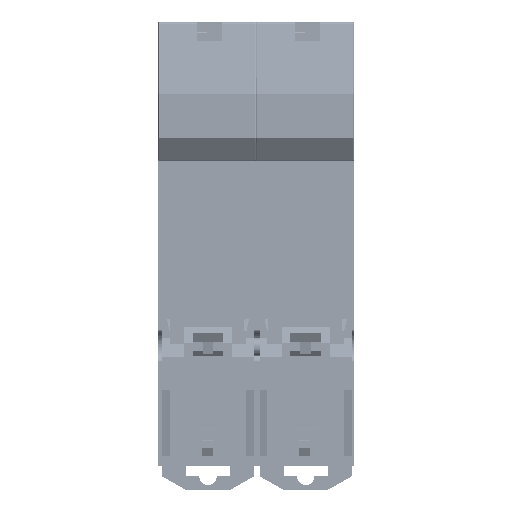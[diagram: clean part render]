
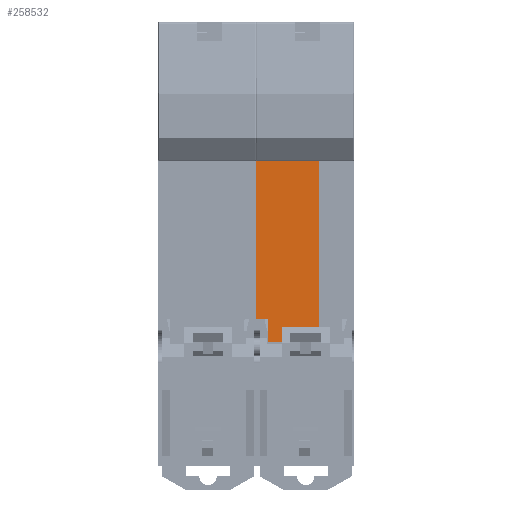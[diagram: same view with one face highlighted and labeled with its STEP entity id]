
A CAD part, left-side view. The second image highlights one B-rep face of the part: STEP entity #258532.
In plain terms, the highlighted planar face has unit normal (-1, 0, 0).
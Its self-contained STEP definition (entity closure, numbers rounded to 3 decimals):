
#2068 = ORIENTED_EDGE ( 'NONE', *, *, #151722, .T. ) ;
#18784 = ORIENTED_EDGE ( 'NONE', *, *, #134835, .T. ) ;
#41445 = CARTESIAN_POINT ( 'NONE',  ( -2.5, 17.8, 58.1 ) ) ;
#49474 = DIRECTION ( 'NONE',  ( 0., 1., 0. ) ) ;
#56892 = CARTESIAN_POINT ( 'NONE',  ( -2.5, 17.8, 26.9 ) ) ;
#66503 = CARTESIAN_POINT ( 'NONE',  ( -2.5, 17.8, 26.9 ) ) ;
#67610 = CARTESIAN_POINT ( 'NONE',  ( -2.5, 15.65, 22.6 ) ) ;
#70906 = EDGE_LOOP ( 'NONE', ( #301966, #2068, #261296, #18784, #110823, #264464 ) ) ;
#76070 = CARTESIAN_POINT ( 'NONE',  ( -2.5, 38.9, 58.1 ) ) ;
#82437 = VERTEX_POINT ( 'NONE', #66503 ) ;
#95345 = DIRECTION ( 'NONE',  ( 0., -1., 0. ) ) ;
#103895 = AXIS2_PLACEMENT_3D ( 'NONE', #398211, #234172, #198676 ) ;
#110016 = DIRECTION ( 'NONE',  ( 0., 0., -1. ) ) ;
#110823 = ORIENTED_EDGE ( 'NONE', *, *, #281735, .T. ) ;
#126208 = EDGE_CURVE ( 'NONE', #313142, #82437, #390506, .T. ) ;
#128500 = CARTESIAN_POINT ( 'NONE',  ( -2.5, 17.8, 22.6 ) ) ;
#132743 = CARTESIAN_POINT ( 'NONE',  ( -2.5, 6.3, 58.1 ) ) ;
#134835 = EDGE_CURVE ( 'NONE', #362478, #353608, #242919, .T. ) ;
#149512 = VECTOR ( 'NONE', #391194, 1000. ) ;
#151722 = EDGE_CURVE ( 'NONE', #208847, #324930, #234418, .T. ) ;
#157368 = LINE ( 'NONE', #128500, #323356 ) ;
#167993 = CARTESIAN_POINT ( 'NONE',  ( -2.5, 15.65, 58.1 ) ) ;
#194138 = CARTESIAN_POINT ( 'NONE',  ( -2.5, 15.65, 26.9 ) ) ;
#198676 = DIRECTION ( 'NONE',  ( 0., 0., 1. ) ) ;
#205245 = DIRECTION ( 'NONE',  ( 0., 0., 1. ) ) ;
#208847 = VERTEX_POINT ( 'NONE', #194138 ) ;
#234172 = DIRECTION ( 'NONE',  ( 1., 0., 0. ) ) ;
#234418 = LINE ( 'NONE', #167993, #322505 ) ;
#242919 = LINE ( 'NONE', #278254, #378998 ) ;
#258532 = ADVANCED_FACE ( 'NONE', ( #438009 ), #296246, .F. ) ;
#261296 = ORIENTED_EDGE ( 'NONE', *, *, #381179, .T. ) ;
#264464 = ORIENTED_EDGE ( 'NONE', *, *, #126208, .T. ) ;
#278254 = CARTESIAN_POINT ( 'NONE',  ( -2.5, 6.3, 58.1 ) ) ;
#281735 = EDGE_CURVE ( 'NONE', #353608, #313142, #352746, .T. ) ;
#296246 = PLANE ( 'NONE',  #103895 ) ;
#301966 = ORIENTED_EDGE ( 'NONE', *, *, #308246, .T. ) ;
#305294 = DIRECTION ( 'NONE',  ( 0., 0., -1. ) ) ;
#308246 = EDGE_CURVE ( 'NONE', #82437, #208847, #360155, .T. ) ;
#313142 = VERTEX_POINT ( 'NONE', #350897 ) ;
#322505 = VECTOR ( 'NONE', #305294, 1000. ) ;
#323356 = VECTOR ( 'NONE', #95345, 1000. ) ;
#324930 = VERTEX_POINT ( 'NONE', #67610 ) ;
#350897 = CARTESIAN_POINT ( 'NONE',  ( -2.5, 17.8, 58.1 ) ) ;
#352746 = LINE ( 'NONE', #76070, #418237 ) ;
#353608 = VERTEX_POINT ( 'NONE', #132743 ) ;
#360155 = LINE ( 'NONE', #56892, #149512 ) ;
#362478 = VERTEX_POINT ( 'NONE', #367541 ) ;
#367541 = CARTESIAN_POINT ( 'NONE',  ( -2.5, 6.3, 22.6 ) ) ;
#378998 = VECTOR ( 'NONE', #205245, 1000. ) ;
#381179 = EDGE_CURVE ( 'NONE', #324930, #362478, #157368, .T. ) ;
#390506 = LINE ( 'NONE', #41445, #425510 ) ;
#391194 = DIRECTION ( 'NONE',  ( 0., -1., 0. ) ) ;
#398211 = CARTESIAN_POINT ( 'NONE',  ( -2.5, 17.8, 58.1 ) ) ;
#418237 = VECTOR ( 'NONE', #49474, 1000. ) ;
#425510 = VECTOR ( 'NONE', #110016, 1000. ) ;
#438009 = FACE_OUTER_BOUND ( 'NONE', #70906, .T. ) ;
